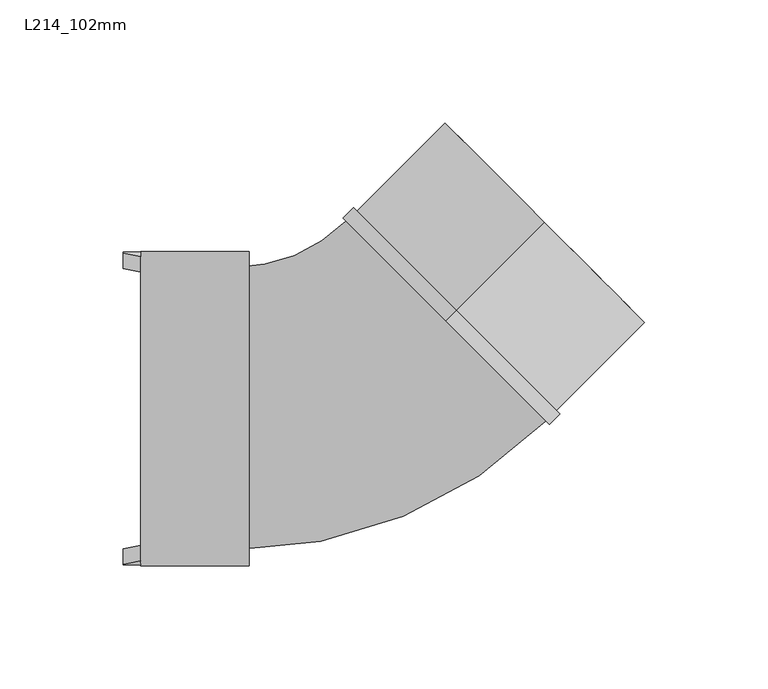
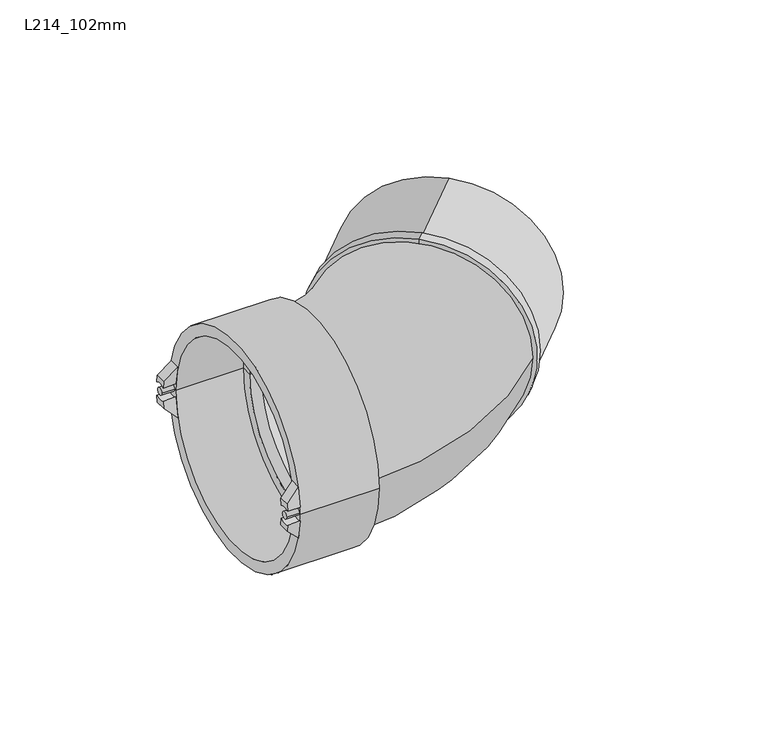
"""IFC4 building model written with IfcOpenShell, lengths in millimetres: pipe fitting geometry, Durapipe_PipeFitting_VulcatheneEnfusion_SingleSocketSlowBend_L21 : L214_102mm."""

from ifc_helpers import new_model, si_unit, point, frame, frame_2d, origin, place, context, project, spatial, polyline, circle_curve, ellipse_curve, trimmed, segment, composite_curve, outline, extrude, source, transform, mapped, element, save
from ifc_brep_helpers import plane_surface, cylinder_surface, revolved_surface, advanced_brep


def l214_102mm_08f92101(model_context):
    return source(origin(), model_context, "Body", "SolidModel", [
        advanced_brep(
        [(-95.5269478, 57.4204827, -3.858843), (-95.5269478, 63.5204827, -4.058421), (-95.5269478, 63.1528218, -7.94), (-95.5269478, 56.9996395, -7.94), (-88.4269478, 61.8572752, -15.0), (-88.4269478, 63.5204827, -4.058421), (-88.4269478, 57.4204827, -3.858843), (-88.4269478, 55.5608, -15.0)],
        [
            (0, 1, circle_curve(frame((-95.5269478, 60.6, 0.0), z_axis=(1.0, 0.0, 0.0), x_axis=(0.0, -1.0, 0.0)), 5.0)),
            (1, 2, circle_curve(frame((-95.5269478, 0.0, 0.0), z_axis=(-1.0, 0.0, 0.0), x_axis=(0.0, -1.0, 0.0)), 63.65)),
            (2, 3),
            (3, 0, circle_curve(frame((-95.5269478, 0.0, 0.0), z_axis=(1.0, 0.0, 0.0), x_axis=(0.0, -1.0, 0.0)), 57.55)),
            (4, 5, circle_curve(frame((-88.4269478, 0.0, 0.0), z_axis=(1.0, 0.0, 0.0), x_axis=(0.0, -1.0, 0.0)), 63.65)),
            (5, 6, circle_curve(frame((-88.4269478, 60.6, 0.0), z_axis=(-1.0, 0.0, 0.0), x_axis=(0.0, -1.0, 0.0)), 5.0)),
            (6, 7, circle_curve(frame((-88.4269478, 0.0, 0.0), z_axis=(-1.0, 0.0, 0.0), x_axis=(0.0, -1.0, 0.0)), 57.55)),
            (7, 4),
            (6, 0),
            (3, 7, ellipse_curve(frame((-103.5119337, 0.0, 0.0), z_axis=(-0.705106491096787, 0.0, -0.7091014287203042), x_axis=(0.7091014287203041, 0.0, -0.705106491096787)), 81.618877, 57.55)),
            (4, 2, ellipse_curve(frame((-103.5119337, 0.0, 0.0), z_axis=(0.705106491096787, 0.0, 0.7091014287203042), x_axis=(-0.7091014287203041, 0.0, 0.705106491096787)), 90.2700525, 63.65)),
            (1, 5),
        ],
        [
            plane_surface(frame((-95.5269478, 61.8572752, -15.0), z_axis=(-1.0, 0.0, 0.0), x_axis=(0.0, -1.0, 0.0))),
            plane_surface(frame((-88.4269478, 61.8572752, -15.0), z_axis=(1.0, 0.0, 0.0), x_axis=(0.0, 1.0, 0.0))),
            revolved_surface(polyline([(-45.63587140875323, -57.55, 0.0), (-161.38799599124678, -57.55, 0.0)]), (-88.4269478, 0.0, 0.0), (1.0, 0.0, 0.0)),
            cylinder_surface(frame((-88.4269478, 0.0, 0.0), z_axis=(-1.0, 0.0, 0.0), x_axis=(0.0, -1.0, 0.0)), 63.65),
            revolved_surface(polyline([(-95.5269478, 55.6, 0.0), (-88.4269478, 55.6, 0.0)]), (-88.4269478, 60.6, 0.0), (-1.0, 0.0, 0.0)),
            plane_surface(frame((-88.4269478, -63.65, -15.0), z_axis=(-0.705106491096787, 0.0, -0.7091014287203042), x_axis=(0.0, 1.0, 0.0))),
        ],
        [
            (0, [[1, 2, 3, 4]]),
            (1, [[5, 6, 7, 8]]),
            (2, [[-7, 9, -4, 10]]),
            (3, [[-5, 11, -2, 12]]),
            (4, [[-1, -9, -6, -12]]),
            (5, [[-3, -11, -8, -10]]),
        ],
    ),
        advanced_brep(
        [(-95.5269478, 63.5204827, 4.058421), (-95.5269478, 57.4204827, 3.858843), (-95.5269478, 56.9996395, 7.94), (-95.5269478, 63.1528218, 7.94), (-88.4269478, 63.5204827, 4.058421), (-88.4269478, 61.8572752, 15.0), (-88.4269478, 55.5608, 15.0), (-88.4269478, 57.4204827, 3.858843)],
        [
            (0, 1, circle_curve(frame((-95.5269478, 60.6, 0.0), z_axis=(1.0, 0.0, 0.0), x_axis=(0.0, -1.0, 0.0)), 5.0)),
            (1, 2, circle_curve(frame((-95.5269478, 0.0, 0.0), z_axis=(1.0, 0.0, 0.0), x_axis=(0.0, -1.0, 0.0)), 57.55)),
            (2, 3),
            (3, 0, circle_curve(frame((-95.5269478, 0.0, 0.0), z_axis=(-1.0, 0.0, 0.0), x_axis=(0.0, -1.0, 0.0)), 63.65)),
            (4, 5, circle_curve(frame((-88.4269478, 0.0, 0.0), z_axis=(1.0, 0.0, 0.0), x_axis=(0.0, -1.0, 0.0)), 63.65)),
            (5, 6),
            (6, 7, circle_curve(frame((-88.4269478, 0.0, 0.0), z_axis=(-1.0, 0.0, 0.0), x_axis=(0.0, -1.0, 0.0)), 57.55)),
            (7, 4, circle_curve(frame((-88.4269478, 60.6, 0.0), z_axis=(-1.0, 0.0, 0.0), x_axis=(0.0, -1.0, 0.0)), 5.0)),
            (6, 2, ellipse_curve(frame((-103.5119337, 0.0, 0.0), z_axis=(-0.7051064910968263, 0.0, 0.7091014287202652), x_axis=(0.7091014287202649, 0.0, 0.7051064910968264)), 81.618877, 57.55)),
            (1, 7),
            (4, 0),
            (3, 5, ellipse_curve(frame((-103.5119337, 0.0, 0.0), z_axis=(0.7051064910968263, 0.0, -0.7091014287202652), x_axis=(-0.7091014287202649, 0.0, -0.7051064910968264)), 90.2700525, 63.65)),
        ],
        [
            plane_surface(frame((-95.5269478, 61.8572752, -15.0), z_axis=(-1.0, 0.0, 0.0), x_axis=(0.0, -1.0, 0.0))),
            plane_surface(frame((-88.4269478, 61.8572752, -15.0), z_axis=(1.0, 0.0, 0.0), x_axis=(0.0, 1.0, 0.0))),
            revolved_surface(polyline([(-45.63587140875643, -57.55, 0.0), (-161.38799599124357, -57.55, 0.0)]), (-88.4269478, 0.0, 0.0), (1.0, 0.0, 0.0)),
            cylinder_surface(frame((-88.4269478, 0.0, 0.0), z_axis=(-1.0, 0.0, 0.0), x_axis=(0.0, -1.0, 0.0)), 63.65),
            revolved_surface(polyline([(-95.5269478, 55.6, 0.0), (-88.4269478, 55.6, 0.0)]), (-88.4269478, 60.6, 0.0), (-1.0, 0.0, 0.0)),
            plane_surface(frame((-95.5269478, -63.65, 7.94), z_axis=(-0.7051064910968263, 0.0, 0.7091014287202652), x_axis=(0.0, 1.0, 0.0))),
        ],
        [
            (0, [[1, 2, 3, 4]]),
            (1, [[5, 6, 7, 8]]),
            (2, [[-7, 9, -2, 10]]),
            (3, [[-5, 11, -4, 12]]),
            (4, [[-1, -11, -8, -10]]),
            (5, [[-3, -9, -6, -12]]),
        ],
    ),
        advanced_brep(
        [(-95.5269478, -63.5204827, -4.058421), (-95.5269478, -57.4204827, -3.858843), (-95.5269478, -56.9996395, -7.94), (-95.5269478, -63.1528218, -7.94), (-88.4269478, -63.5204827, -4.058421), (-88.4269478, -61.8572752, -15.0), (-88.4269478, -55.5608, -15.0), (-88.4269478, -57.4204827, -3.858843)],
        [
            (0, 1, circle_curve(frame((-95.5269478, -60.6, 0.0), z_axis=(1.0, 0.0, 0.0), x_axis=(0.0, -1.0, 0.0)), 5.0)),
            (1, 2, circle_curve(frame((-95.5269478, 0.0, 0.0), z_axis=(1.0, 0.0, 0.0), x_axis=(0.0, -1.0, 0.0)), 57.55)),
            (2, 3),
            (3, 0, circle_curve(frame((-95.5269478, 0.0, 0.0), z_axis=(-1.0, 0.0, 0.0), x_axis=(0.0, -1.0, 0.0)), 63.65)),
            (4, 5, circle_curve(frame((-88.4269478, 0.0, 0.0), z_axis=(1.0, 0.0, 0.0), x_axis=(0.0, -1.0, 0.0)), 63.65)),
            (5, 6),
            (6, 7, circle_curve(frame((-88.4269478, 0.0, 0.0), z_axis=(-1.0, 0.0, 0.0), x_axis=(0.0, -1.0, 0.0)), 57.55)),
            (7, 4, circle_curve(frame((-88.4269478, -60.6, 0.0), z_axis=(-1.0, 0.0, 0.0), x_axis=(0.0, -1.0, 0.0)), 5.0)),
            (6, 2, ellipse_curve(frame((-103.5119337, 0.0, 0.0), z_axis=(-0.705106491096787, 0.0, -0.7091014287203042), x_axis=(0.7091014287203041, 0.0, -0.705106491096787)), 81.618877, 57.55)),
            (1, 7),
            (4, 0),
            (3, 5, ellipse_curve(frame((-103.5119337, 0.0, 0.0), z_axis=(0.705106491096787, 0.0, 0.7091014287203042), x_axis=(-0.7091014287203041, 0.0, 0.705106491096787)), 90.2700525, 63.65)),
        ],
        [
            plane_surface(frame((-95.5269478, 61.8572752, -15.0), z_axis=(-1.0, 0.0, 0.0), x_axis=(0.0, -1.0, 0.0))),
            plane_surface(frame((-88.4269478, 61.8572752, -15.0), z_axis=(1.0, 0.0, 0.0), x_axis=(0.0, 1.0, 0.0))),
            revolved_surface(polyline([(-45.63587140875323, -57.55, 0.0), (-161.38799599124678, -57.55, 0.0)]), (-88.4269478, 0.0, 0.0), (1.0, 0.0, 0.0)),
            cylinder_surface(frame((-88.4269478, 0.0, 0.0), z_axis=(-1.0, 0.0, 0.0), x_axis=(0.0, -1.0, 0.0)), 63.65),
            revolved_surface(polyline([(-95.5269478, -65.6, 0.0), (-88.4269478, -65.6, 0.0)]), (-88.4269478, -60.6, 0.0), (-1.0, 0.0, 0.0)),
            plane_surface(frame((-88.4269478, -63.65, -15.0), z_axis=(-0.705106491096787, 0.0, -0.7091014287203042), x_axis=(0.0, 1.0, 0.0))),
        ],
        [
            (0, [[1, 2, 3, 4]]),
            (1, [[5, 6, 7, 8]]),
            (2, [[-7, 9, -2, 10]]),
            (3, [[-5, 11, -4, 12]]),
            (4, [[-1, -11, -8, -10]]),
            (5, [[-3, -9, -6, -12]]),
        ],
    ),
        advanced_brep(
        [(-95.5269478, -57.4204827, 3.858843), (-95.5269478, -63.5204827, 4.058421), (-95.5269478, -63.1528218, 7.94), (-95.5269478, -56.9996395, 7.94), (-88.4269478, -61.8572752, 15.0), (-88.4269478, -63.5204827, 4.058421), (-88.4269478, -57.4204827, 3.858843), (-88.4269478, -55.5608, 15.0)],
        [
            (0, 1, circle_curve(frame((-95.5269478, -60.6, 0.0), z_axis=(1.0, 0.0, 0.0), x_axis=(0.0, -1.0, 0.0)), 5.0)),
            (1, 2, circle_curve(frame((-95.5269478, 0.0, 0.0), z_axis=(-1.0, 0.0, 0.0), x_axis=(0.0, -1.0, 0.0)), 63.65)),
            (2, 3),
            (3, 0, circle_curve(frame((-95.5269478, 0.0, 0.0), z_axis=(1.0, 0.0, 0.0), x_axis=(0.0, -1.0, 0.0)), 57.55)),
            (4, 5, circle_curve(frame((-88.4269478, 0.0, 0.0), z_axis=(1.0, 0.0, 0.0), x_axis=(0.0, -1.0, 0.0)), 63.65)),
            (5, 6, circle_curve(frame((-88.4269478, -60.6, 0.0), z_axis=(-1.0, 0.0, 0.0), x_axis=(0.0, -1.0, 0.0)), 5.0)),
            (6, 7, circle_curve(frame((-88.4269478, 0.0, 0.0), z_axis=(-1.0, 0.0, 0.0), x_axis=(0.0, -1.0, 0.0)), 57.55)),
            (7, 4),
            (6, 0),
            (3, 7, ellipse_curve(frame((-103.5119337, 0.0, 0.0), z_axis=(-0.7051064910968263, 0.0, 0.7091014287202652), x_axis=(0.7091014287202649, 0.0, 0.7051064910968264)), 81.618877, 57.55)),
            (4, 2, ellipse_curve(frame((-103.5119337, 0.0, 0.0), z_axis=(0.7051064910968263, 0.0, -0.7091014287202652), x_axis=(-0.7091014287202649, 0.0, -0.7051064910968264)), 90.2700525, 63.65)),
            (1, 5),
        ],
        [
            plane_surface(frame((-95.5269478, 61.8572752, -15.0), z_axis=(-1.0, 0.0, 0.0), x_axis=(0.0, -1.0, 0.0))),
            plane_surface(frame((-88.4269478, 61.8572752, -15.0), z_axis=(1.0, 0.0, 0.0), x_axis=(0.0, 1.0, 0.0))),
            revolved_surface(polyline([(-45.63587140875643, -57.55, 0.0), (-161.38799599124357, -57.55, 0.0)]), (-88.4269478, 0.0, 0.0), (1.0, 0.0, 0.0)),
            cylinder_surface(frame((-88.4269478, 0.0, 0.0), z_axis=(-1.0, 0.0, 0.0), x_axis=(0.0, -1.0, 0.0)), 63.65),
            revolved_surface(polyline([(-95.5269478, -65.6, 0.0), (-88.4269478, -65.6, 0.0)]), (-88.4269478, -60.6, 0.0), (-1.0, 0.0, 0.0)),
            plane_surface(frame((-95.5269478, -63.65, 7.94), z_axis=(-0.7051064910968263, 0.0, 0.7091014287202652), x_axis=(0.0, 1.0, 0.0))),
        ],
        [
            (0, [[1, 2, 3, 4]]),
            (1, [[5, 6, 7, 8]]),
            (2, [[-7, 9, -4, 10]]),
            (3, [[-5, 11, -2, 12]]),
            (4, [[-1, -9, -6, -12]]),
            (5, [[-3, -11, -8, -10]]),
        ],
    ),
        extrude(outline(composite_curve([segment(trimmed(circle_curve(frame_2d((60.6, 0.0)), 2.0), [point((62.6, 0.0))], [point((58.6, 0.0))], False, "CARTESIAN"), True, "CONTINUOUS"), segment(trimmed(circle_curve(frame_2d((60.6, 0.0)), 2.0), [point((58.6, 0.0))], [point((62.6, 0.0))], False, "CARTESIAN"), True, "CONTINUOUS")], self_intersect=False)), frame((-95.5269478, 0.0, 0.0), z_axis=(1.0, 0.0, 0.0), x_axis=(0.0, 1.0, 0.0)), (0.0, 0.0, 1.0), 7.1),
        extrude(outline(composite_curve([segment(trimmed(circle_curve(frame_2d((-60.6, 0.0)), 2.0), [point((-58.6, 0.0))], [point((-62.6, 0.0))], False, "CARTESIAN"), True, "CONTINUOUS"), segment(trimmed(circle_curve(frame_2d((-60.6, 0.0)), 2.0), [point((-62.6, 0.0))], [point((-58.6, 0.0))], False, "CARTESIAN"), True, "CONTINUOUS")], self_intersect=False)), frame((-95.5269478, 0.0, 0.0), z_axis=(1.0, 0.0, 0.0), x_axis=(0.0, 1.0, 0.0)), (0.0, 0.0, 1.0), 7.1),
        advanced_brep(
        [(-50.3269478, 51.45, 0.0), (-50.3269478, -51.45, 0.0), (-50.3269478, -57.4, 0.0), (-50.3269478, 57.4, 0.0), (-44.3269478, 51.45, 0.0), (-44.3269478, -51.45, 0.0), (-44.3269478, 63.8, 0.0), (-44.3269478, -63.8, 0.0), (-88.4269478, 63.8, 0.0), (-88.4269478, -63.8, 0.0), (-88.4269478, 57.4, 0.0), (-88.4269478, -57.4, 0.0)],
        [
            (0, 1, circle_curve(frame((-50.3269478, 0.0, 0.0), z_axis=(1.0, 0.0, 0.0), x_axis=(0.0, -1.0, 0.0)), 51.45)),
            (1, 2),
            (2, 3, circle_curve(frame((-50.3269478, 0.0, 0.0), z_axis=(-1.0, 0.0, 0.0), x_axis=(0.0, -1.0, 0.0)), 57.4)),
            (3, 0),
            (1, 0, circle_curve(frame((-50.3269478, 0.0, 0.0), z_axis=(1.0, 0.0, 0.0), x_axis=(0.0, -1.0, 0.0)), 51.45)),
            (3, 2, circle_curve(frame((-50.3269478, 0.0, 0.0), z_axis=(-1.0, 0.0, 0.0), x_axis=(0.0, -1.0, 0.0)), 57.4)),
            (4, 5, circle_curve(frame((-44.3269478, 0.0, 0.0), z_axis=(1.0, 0.0, 0.0), x_axis=(0.0, -1.0, 0.0)), 51.45)),
            (5, 1),
            (0, 4),
            (5, 4, circle_curve(frame((-44.3269478, 0.0, 0.0), z_axis=(1.0, 0.0, 0.0), x_axis=(0.0, -1.0, 0.0)), 51.45)),
            (6, 7, circle_curve(frame((-44.3269478, 0.0, 0.0), z_axis=(1.0, 0.0, 0.0), x_axis=(0.0, -1.0, 0.0)), 63.8)),
            (7, 5),
            (4, 6),
            (7, 6, circle_curve(frame((-44.3269478, 0.0, 0.0), z_axis=(1.0, 0.0, 0.0), x_axis=(0.0, -1.0, 0.0)), 63.8)),
            (8, 9, circle_curve(frame((-88.4269478, 0.0, 0.0), z_axis=(1.0, 0.0, 0.0), x_axis=(0.0, -1.0, 0.0)), 63.8)),
            (9, 7),
            (6, 8),
            (9, 8, circle_curve(frame((-88.4269478, 0.0, 0.0), z_axis=(1.0, 0.0, 0.0), x_axis=(0.0, -1.0, 0.0)), 63.8)),
            (10, 11, circle_curve(frame((-88.4269478, 0.0, 0.0), z_axis=(1.0, 0.0, 0.0), x_axis=(0.0, -1.0, 0.0)), 57.4)),
            (11, 9),
            (8, 10),
            (11, 10, circle_curve(frame((-88.4269478, 0.0, 0.0), z_axis=(1.0, 0.0, 0.0), x_axis=(0.0, -1.0, 0.0)), 57.4)),
            (2, 11),
            (10, 3),
        ],
        [
            plane_surface(frame((-50.3269478, 0.0, 0.0), z_axis=(-1.0, 0.0, 0.0), x_axis=(0.0, -1.0, 0.0))),
            revolved_surface(polyline([(-50.3269478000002, -51.45, 0.0), (-44.3269478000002, -51.45, 0.0)]), (-2602.4095719, 0.0, 0.0), (-1.0, 0.0, 0.0)),
            plane_surface(frame((-44.3269478, 0.0, 0.0), z_axis=(1.0, 0.0, 0.0), x_axis=(0.0, -1.0, 0.0))),
            cylinder_surface(frame((-2602.4095719, 0.0, 0.0), z_axis=(-1.0, 0.0, 0.0), x_axis=(0.0, -1.0, 0.0)), 63.8),
            plane_surface(frame((-88.4269478, 0.0, 0.0), z_axis=(-1.0, 0.0, 0.0), x_axis=(0.0, -1.0, 0.0))),
            revolved_surface(polyline([(-88.42694780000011, -57.4, 0.0), (-50.3269478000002, -57.4, 0.0)]), (-2602.4095719, 0.0, 0.0), (-1.0, 0.0, 0.0)),
        ],
        [
            (0, [[1, 2, 3, 4]]),
            (0, [[5, -4, 6, -2]]),
            (1, [[7, 8, -1, 9]]),
            (1, [[10, -9, -5, -8]]),
            (2, [[11, 12, -7, 13]]),
            (2, [[14, -13, -10, -12]]),
            (3, [[15, 16, -11, 17]]),
            (3, [[18, -17, -14, -16]]),
            (4, [[19, 20, -15, 21]]),
            (4, [[22, -21, -18, -20]]),
            (5, [[-3, 23, -19, 24]]),
            (5, [[-6, -24, -22, -23]]),
        ],
    ),
        advanced_brep(
        [(35.5865261, 35.5865261, -59.4), (35.5865261, 35.5865261, 59.4), (35.5865261, 35.5865261, 51.45), (35.5865261, 35.5865261, -51.45), (39.8291668, 39.8291668, -59.4), (39.8291668, 39.8291668, 59.4), (39.8291668, 39.8291668, -57.4), (39.8291668, 39.8291668, 57.4), (75.6087699, 75.6087699, -57.4), (75.6087699, 75.6087699, 57.4), (75.6087699, 75.6087699, -51.45), (75.6087699, 75.6087699, 51.45)],
        [
            (0, 1, circle_curve(frame((35.5865261, 35.5865261, 0.0), z_axis=(-0.7071067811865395, -0.7071067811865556, 0.0), x_axis=(0.0, 0.0, 1.0)), 59.4)),
            (1, 2),
            (2, 3, circle_curve(frame((35.5865261, 35.5865261, 0.0), z_axis=(0.7071067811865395, 0.7071067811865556, 0.0), x_axis=(0.0, 0.0, 1.0)), 51.45)),
            (3, 0),
            (1, 0, circle_curve(frame((35.5865261, 35.5865261, 0.0), z_axis=(-0.7071067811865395, -0.7071067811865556, 0.0), x_axis=(0.0, 0.0, 1.0)), 59.4)),
            (3, 2, circle_curve(frame((35.5865261, 35.5865261, 0.0), z_axis=(0.7071067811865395, 0.7071067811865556, 0.0), x_axis=(0.0, 0.0, 1.0)), 51.45)),
            (4, 5, circle_curve(frame((39.8291668, 39.8291668, 0.0), z_axis=(-0.7071067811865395, -0.7071067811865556, 0.0), x_axis=(0.0, 0.0, 1.0)), 59.4)),
            (5, 1),
            (0, 4),
            (5, 4, circle_curve(frame((39.8291668, 39.8291668, 0.0), z_axis=(-0.7071067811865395, -0.7071067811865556, 0.0), x_axis=(0.0, 0.0, 1.0)), 59.4)),
            (6, 7, circle_curve(frame((39.8291668, 39.8291668, 0.0), z_axis=(-0.7071067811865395, -0.7071067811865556, 0.0), x_axis=(0.0, 0.0, 1.0)), 57.4)),
            (7, 5),
            (4, 6),
            (7, 6, circle_curve(frame((39.8291668, 39.8291668, 0.0), z_axis=(-0.7071067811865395, -0.7071067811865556, 0.0), x_axis=(0.0, 0.0, 1.0)), 57.4)),
            (8, 9, circle_curve(frame((75.6087699, 75.6087699, 0.0), z_axis=(-0.7071067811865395, -0.7071067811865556, 0.0), x_axis=(0.0, 0.0, 1.0)), 57.4)),
            (9, 7),
            (6, 8),
            (9, 8, circle_curve(frame((75.6087699, 75.6087699, 0.0), z_axis=(-0.7071067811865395, -0.7071067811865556, 0.0), x_axis=(0.0, 0.0, 1.0)), 57.4)),
            (10, 11, circle_curve(frame((75.6087699, 75.6087699, 0.0), z_axis=(-0.7071067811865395, -0.7071067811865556, 0.0), x_axis=(0.0, 0.0, 1.0)), 51.45)),
            (11, 9),
            (8, 10),
            (11, 10, circle_curve(frame((75.6087699, 75.6087699, 0.0), z_axis=(-0.7071067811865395, -0.7071067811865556, 0.0), x_axis=(0.0, 0.0, 1.0)), 51.45)),
            (2, 11),
            (10, 3),
        ],
        [
            plane_surface(frame((35.5865261, 35.5865261, 0.0), z_axis=(-0.7071067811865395, -0.7071067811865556, 0.0), x_axis=(0.0, 0.0, 1.0))),
            cylinder_surface(frame((1878.0650389, 1878.0650389, 0.0), z_axis=(0.7071067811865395, 0.7071067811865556, 0.0), x_axis=(0.0, 0.0, 1.0)), 59.4),
            plane_surface(frame((39.8291668, 39.8291668, 0.0), z_axis=(0.7071067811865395, 0.7071067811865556, 0.0), x_axis=(0.0, 0.0, 1.0))),
            cylinder_surface(frame((1878.0650389, 1878.0650389, 0.0), z_axis=(0.7071067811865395, 0.7071067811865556, 0.0), x_axis=(0.0, 0.0, 1.0)), 57.4),
            plane_surface(frame((75.6087699, 75.6087699, 0.0), z_axis=(0.7071067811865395, 0.7071067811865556, 0.0), x_axis=(0.0, 0.0, 1.0))),
            revolved_surface(polyline([(75.60876990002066, 75.6087698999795, 51.45), (35.58652610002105, 35.58652609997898, 51.45)]), (1878.0650389, 1878.0650389, 0.0), (0.7071067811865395, 0.7071067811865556, 0.0)),
        ],
        [
            (0, [[1, 2, 3, 4]]),
            (0, [[5, -4, 6, -2]]),
            (1, [[7, 8, -1, 9]]),
            (1, [[10, -9, -5, -8]]),
            (2, [[11, 12, -7, 13]]),
            (2, [[14, -13, -10, -12]]),
            (3, [[15, 16, -11, 17]]),
            (3, [[18, -17, -14, -16]]),
            (4, [[19, 20, -15, 21]]),
            (4, [[22, -21, -18, -20]]),
            (5, [[-3, 23, -19, 24]]),
            (5, [[-6, -24, -22, -23]]),
        ],
    ),
        advanced_brep(
        [(-50.3269478, -57.4, 0.0), (-50.3269478, 57.4, 0.0), (-50.3269478, -51.45, 0.0), (-50.3269478, 51.45, 0.0), (76.1744553, -5.0014032, 0.0), (-5.0014032, 76.1744553, 0.0), (71.96717, -0.7941178, 0.0), (-0.7941178, 71.96717, 0.0)],
        [
            (0, 1, circle_curve(frame((-50.3269478, 0.0, 0.0), z_axis=(-1.0, 0.0, 0.0), x_axis=(0.0, 1.0, 0.0)), 57.4)),
            (1, 0, circle_curve(frame((-50.3269478, 0.0, 0.0), z_axis=(-1.0, 0.0, 0.0), x_axis=(0.0, 1.0, 0.0)), 57.4)),
            (2, 3, circle_curve(frame((-50.3269478, 0.0, 0.0), z_axis=(1.0, 0.0, 0.0), x_axis=(0.0, 1.0, 0.0)), 51.45)),
            (3, 2, circle_curve(frame((-50.3269478, 0.0, 0.0), z_axis=(1.0, 0.0, 0.0), x_axis=(0.0, 1.0, 0.0)), 51.45)),
            (4, 5, circle_curve(frame((35.5865261, 35.5865261, 0.0), z_axis=(0.7071067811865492, 0.7071067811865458, 0.0), x_axis=(-0.7071067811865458, 0.7071067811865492, 0.0)), 57.4)),
            (5, 4, circle_curve(frame((35.5865261, 35.5865261, 0.0), z_axis=(0.7071067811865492, 0.7071067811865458, 0.0), x_axis=(-0.7071067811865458, 0.7071067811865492, 0.0)), 57.4)),
            (6, 7, circle_curve(frame((35.5865261, 35.5865261, 0.0), z_axis=(-0.7071067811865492, -0.7071067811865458, 0.0), x_axis=(-0.7071067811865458, 0.7071067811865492, 0.0)), 51.45)),
            (7, 6, circle_curve(frame((35.5865261, 35.5865261, 0.0), z_axis=(-0.7071067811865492, -0.7071067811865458, 0.0), x_axis=(-0.7071067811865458, 0.7071067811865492, 0.0)), 51.45)),
            (5, 1, circle_curve(frame((-50.3269478, 121.5, 0.0), z_axis=(0.0, 0.0, -1.0), x_axis=(0.0, -1.0, 0.0)), 64.1)),
            (0, 4, circle_curve(frame((-50.3269478, 121.5, 0.0), z_axis=(0.0, 0.0, 1.0), x_axis=(0.0, -1.0, 0.0)), 178.9)),
            (7, 3, circle_curve(frame((-50.3269478, 121.5, 0.0), z_axis=(0.0, 0.0, -1.0), x_axis=(0.0, -1.0, 0.0)), 70.05)),
            (2, 6, circle_curve(frame((-50.3269478, 121.5, 0.0), z_axis=(0.0, 0.0, 1.0), x_axis=(0.0, -1.0, 0.0)), 172.95)),
        ],
        [
            plane_surface(frame((-50.3269478, 0.0, 0.0), z_axis=(-1.0, 0.0, 0.0), x_axis=(0.0, 0.0, 1.0))),
            plane_surface(frame((35.5865261, 35.5865261, 0.0), z_axis=(0.7071067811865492, 0.7071067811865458, 0.0), x_axis=(0.0, 0.0, 1.0))),
            revolved_surface(trimmed(ellipse_curve(frame((-50.3269478, 0.0, 0.0), z_axis=(-1.0, 0.0, 0.0), x_axis=(0.0, 1.0, 0.0)), 57.4, 57.4), [point((-50.3269478, -57.4, 0.0))], [point((-50.3269478, 57.4, 0.0))], True, "CARTESIAN"), (-50.3269478, 121.5, 0.0), (0.0, 0.0, 1.0)),
            revolved_surface(trimmed(ellipse_curve(frame((-50.3269478, 0.0, 0.0), z_axis=(-1.0, 0.0, 0.0), x_axis=(0.0, 1.0, 0.0)), 57.4, 57.4), [point((-50.3269478, 57.4, 0.0))], [point((-50.3269478, -57.4, 0.0))], True, "CARTESIAN"), (-50.3269478, 121.5, 0.0), (0.0, 0.0, 1.0)),
            revolved_surface(trimmed(ellipse_curve(frame((-50.3269478, 0.0, 0.0), z_axis=(1.0, 0.0, 0.0), x_axis=(0.0, 1.0, 0.0)), 51.45, 51.45), [point((-50.3269478, -51.45, 0.0))], [point((-50.3269478, 51.45, 0.0))], True, "CARTESIAN"), (-50.3269478, 121.5, 0.0), (0.0, 0.0, 1.0)),
            revolved_surface(trimmed(ellipse_curve(frame((-50.3269478, 0.0, 0.0), z_axis=(1.0, 0.0, 0.0), x_axis=(0.0, 1.0, 0.0)), 51.45, 51.45), [point((-50.3269478, 51.45, 0.0))], [point((-50.3269478, -51.45, 0.0))], True, "CARTESIAN"), (-50.3269478, 121.5, 0.0), (0.0, 0.0, 1.0)),
        ],
        [
            (0, [[1, 2], [3, 4]]),
            (1, [[5, 6], [7, 8]]),
            (2, [[9, -1, 10, -6]]),
            (3, [[-10, -2, -9, -5]]),
            (4, [[11, -3, 12, -8]]),
            (5, [[-12, -4, -11, -7]]),
        ],
    ),
    ])


if __name__ == "__main__":
    model = new_model("IFC4")
    model_context = context("Model", 3, world=origin())
    ifc_project = project(units=[si_unit("LENGTHUNIT", "METRE", prefix="MILLI")], contexts=[model_context])
    site = spatial("IfcSite", under=ifc_project)
    building = spatial("IfcBuilding", under=site)
    placement = place(None, origin())
    l214_102mm_shape = l214_102mm_08f92101(model_context)
    element("IfcPipeFitting", 1, ObjectType="Durapipe_PipeFitting_VulcatheneEnfusion_SingleSocketSlowBend_L21 : L214_102mm", at=placement, inside=building, context=model_context, shape_type="MappedRepresentation", body=[
        mapped(l214_102mm_shape, transform((0.0, 0.0, 0.0), x_axis=(1.0, 0.0, 0.0), y_axis=(0.0, 1.0, 0.0), z_axis=(0.0, 0.0, 1.0))),
    ])
    save(model, "model.ifc")
